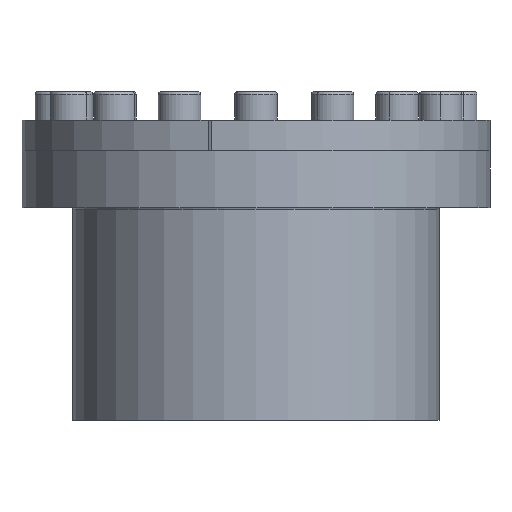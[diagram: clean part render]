
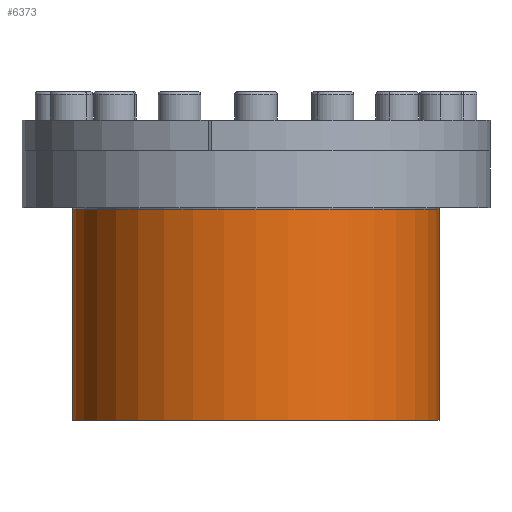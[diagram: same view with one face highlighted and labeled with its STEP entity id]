
A CAD part, front view. The second image highlights one B-rep face of the part: STEP entity #6373.
In plain terms, the highlighted cylindrical face has radius 77.5 mm (diameter 155 mm), a partial arc.
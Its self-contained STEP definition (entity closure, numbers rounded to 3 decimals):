
#248 = LINE ( 'NONE', #14477, #4511 ) ;
#1359 = ORIENTED_EDGE ( 'NONE', *, *, #6975, .F. ) ;
#2914 = CARTESIAN_POINT ( 'NONE',  ( 0., 0., -17.6 ) ) ;
#3501 = LINE ( 'NONE', #15827, #13150 ) ;
#3600 = DIRECTION ( 'NONE',  ( 0., 0., -1. ) ) ;
#4511 = VECTOR ( 'NONE', #3600, 1000. ) ;
#4598 = EDGE_CURVE ( 'NONE', #23297, #10604, #3501, .T. ) ;
#4602 = FACE_OUTER_BOUND ( 'NONE', #11568, .T. ) ;
#4754 = DIRECTION ( 'NONE',  ( -1., 0., 0. ) ) ;
#4926 = DIRECTION ( 'NONE',  ( 0., 0., -1. ) ) ;
#5123 = DIRECTION ( 'NONE',  ( 0., 0., -1. ) ) ;
#6373 = ADVANCED_FACE ( 'NONE', ( #4602 ), #16837, .T. ) ;
#6447 = AXIS2_PLACEMENT_3D ( 'NONE', #16003, #5123, #17844 ) ;
#6791 = CARTESIAN_POINT ( 'NONE',  ( 77.5, 0., -17.6 ) ) ;
#6869 = DIRECTION ( 'NONE',  ( -1., 0., 0. ) ) ;
#6915 = CARTESIAN_POINT ( 'NONE',  ( 77.5, 0., -107. ) ) ;
#6975 = EDGE_CURVE ( 'NONE', #11254, #8915, #248, .T. ) ;
#7325 = EDGE_CURVE ( 'NONE', #11254, #23297, #23398, .T. ) ;
#8109 = EDGE_CURVE ( 'NONE', #8915, #10604, #18750, .T. ) ;
#8602 = DIRECTION ( 'NONE',  ( 0., 0., -1. ) ) ;
#8915 = VERTEX_POINT ( 'NONE', #6915 ) ;
#9600 = ORIENTED_EDGE ( 'NONE', *, *, #7325, .T. ) ;
#10604 = VERTEX_POINT ( 'NONE', #15555 ) ;
#10904 = AXIS2_PLACEMENT_3D ( 'NONE', #14000, #8602, #6869 ) ;
#11254 = VERTEX_POINT ( 'NONE', #6791 ) ;
#11568 = EDGE_LOOP ( 'NONE', ( #1359, #9600, #17182, #14489 ) ) ;
#12022 = AXIS2_PLACEMENT_3D ( 'NONE', #2914, #15637, #4754 ) ;
#13080 = CARTESIAN_POINT ( 'NONE',  ( -77.5, 0., -17.6 ) ) ;
#13150 = VECTOR ( 'NONE', #4926, 1000. ) ;
#14000 = CARTESIAN_POINT ( 'NONE',  ( 0., 0., -17. ) ) ;
#14477 = CARTESIAN_POINT ( 'NONE',  ( 77.5, 0., -17. ) ) ;
#14489 = ORIENTED_EDGE ( 'NONE', *, *, #8109, .F. ) ;
#15555 = CARTESIAN_POINT ( 'NONE',  ( -77.5, 0., -107. ) ) ;
#15637 = DIRECTION ( 'NONE',  ( 0., 0., -1. ) ) ;
#15827 = CARTESIAN_POINT ( 'NONE',  ( -77.5, 0., -17. ) ) ;
#16003 = CARTESIAN_POINT ( 'NONE',  ( 0., 0., -107. ) ) ;
#16837 = CYLINDRICAL_SURFACE ( 'NONE', #10904, 77.5 ) ;
#17182 = ORIENTED_EDGE ( 'NONE', *, *, #4598, .T. ) ;
#17844 = DIRECTION ( 'NONE',  ( -1., 0., 0. ) ) ;
#18750 = CIRCLE ( 'NONE', #6447, 77.5 ) ;
#23297 = VERTEX_POINT ( 'NONE', #13080 ) ;
#23398 = CIRCLE ( 'NONE', #12022, 77.5 ) ;
